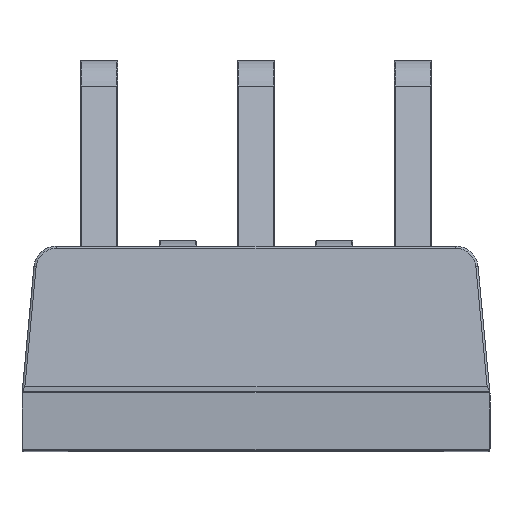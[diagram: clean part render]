
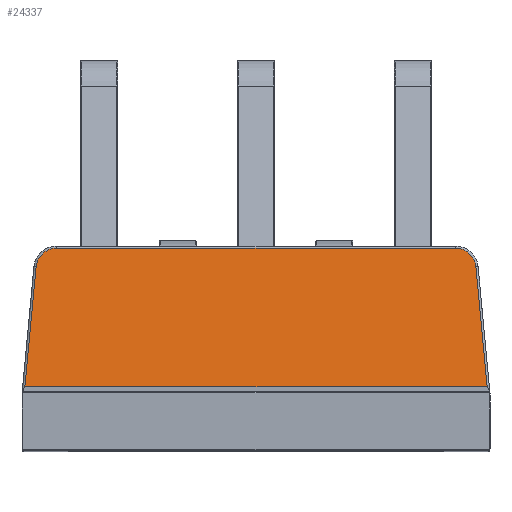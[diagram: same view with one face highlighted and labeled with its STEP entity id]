
A CAD part, top view. The second image highlights one B-rep face of the part: STEP entity #24337.
In plain terms, the highlighted planar face has unit normal (0, 0.139, 0.99).
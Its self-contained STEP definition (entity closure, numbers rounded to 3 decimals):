
#61 = ORIENTED_EDGE ( 'NONE', *, *, #9497, .F. ) ;
#1206 = ORIENTED_EDGE ( 'NONE', *, *, #5228, .T. ) ;
#1872 = CARTESIAN_POINT ( 'NONE',  ( 4.325, 1.497, 13.276 ) ) ;
#2528 = CARTESIAN_POINT ( 'NONE',  ( -4.773, 1.089, 13.333 ) ) ;
#2588 = EDGE_CURVE ( 'NONE', #28641, #30322, #22108, .T. ) ;
#3243 = DIRECTION ( 'NONE',  ( -1., 0., 0. ) ) ;
#3506 = FACE_OUTER_BOUND ( 'NONE', #8769, .T. ) ;
#5228 = EDGE_CURVE ( 'NONE', #28641, #17746, #13402, .T. ) ;
#5240 = CARTESIAN_POINT ( 'NONE',  ( -4.569, 1.497, 13.276 ) ) ;
#6667 = ORIENTED_EDGE ( 'NONE', *, *, #2588, .F. ) ;
#6788 = CARTESIAN_POINT ( 'NONE',  ( -4.773, 1.089, 13.333 ) ) ;
#7123 = CARTESIAN_POINT ( 'NONE',  ( 4.569, 1.497, 13.276 ) ) ;
#7518 = CARTESIAN_POINT ( 'NONE',  ( -4.75, 1.332, 13.299 ) ) ;
#8494 = CARTESIAN_POINT ( 'NONE',  ( -4.69, 1.972, 13.209 ) ) ;
#8769 = EDGE_LOOP ( 'NONE', ( #6667, #1206, #61, #9189, #15100, #17562 ) ) ;
#8947 = EDGE_CURVE ( 'NONE', #23387, #10921, #15773, .T. ) ;
#9189 = ORIENTED_EDGE ( 'NONE', *, *, #17534, .T. ) ;
#9497 = EDGE_CURVE ( 'NONE', #24983, #17746, #15358, .T. ) ;
#9736 = DIRECTION ( 'NONE',  ( -0.093, 0.986, -0.139 ) ) ;
#10921 = VERTEX_POINT ( 'NONE', #28400 ) ;
#11079 = CARTESIAN_POINT ( 'NONE',  ( -4.325, 1.497, 13.276 ) ) ;
#11173 = CARTESIAN_POINT ( 'NONE',  ( 5.017, -1.52, 13.7 ) ) ;
#11814 = LINE ( 'NONE', #12599, #20061 ) ;
#12599 = CARTESIAN_POINT ( 'NONE',  ( 4.69, 1.972, 13.209 ) ) ;
#13248 = PLANE ( 'NONE',  #15486 ) ;
#13402 = LINE ( 'NONE', #8494, #14436 ) ;
#13819 = CARTESIAN_POINT ( 'NONE',  ( 4.773, 1.089, 13.333 ) ) ;
#14436 = VECTOR ( 'NONE', #30514, 1000. ) ;
#15100 = ORIENTED_EDGE ( 'NONE', *, *, #8947, .F. ) ;
#15358 = LINE ( 'NONE', #25176, #18626 ) ;
#15486 = AXIS2_PLACEMENT_3D ( 'NONE', #19157, #28859, #23837 ) ;
#15595 = CARTESIAN_POINT ( 'NONE',  ( 0., 1.497, 13.276 ) ) ;
#15773 =( BOUNDED_CURVE ( )  B_SPLINE_CURVE ( 3, ( #1872, #7123, #19391, #13819 ),
 .UNSPECIFIED., .F., .F. ) 
 B_SPLINE_CURVE_WITH_KNOTS ( ( 4, 4 ),
 ( 0., 1.477 ),
 .UNSPECIFIED. ) 
 CURVE ( )  GEOMETRIC_REPRESENTATION_ITEM ( )  RATIONAL_B_SPLINE_CURVE ( ( 1., 0.826, 0.826, 1. ) ) 
 REPRESENTATION_ITEM ( '' )  );
#16076 = LINE ( 'NONE', #15595, #22748 ) ;
#17534 = EDGE_CURVE ( 'NONE', #24983, #10921, #11814, .T. ) ;
#17562 = ORIENTED_EDGE ( 'NONE', *, *, #19255, .T. ) ;
#17746 = VERTEX_POINT ( 'NONE', #25777 ) ;
#18626 = VECTOR ( 'NONE', #3243, 1000. ) ;
#19157 = CARTESIAN_POINT ( 'NONE',  ( 0., 1.54, 13.27 ) ) ;
#19255 = EDGE_CURVE ( 'NONE', #23387, #30322, #16076, .T. ) ;
#19391 = CARTESIAN_POINT ( 'NONE',  ( 4.75, 1.332, 13.299 ) ) ;
#20061 = VECTOR ( 'NONE', #9736, 1000. ) ;
#22108 =( BOUNDED_CURVE ( )  B_SPLINE_CURVE ( 3, ( #2528, #7518, #5240, #29669 ),
 .UNSPECIFIED., .F., .F. ) 
 B_SPLINE_CURVE_WITH_KNOTS ( ( 4, 4 ),
 ( 1.664, 3.142 ),
 .UNSPECIFIED. ) 
 CURVE ( )  GEOMETRIC_REPRESENTATION_ITEM ( )  RATIONAL_B_SPLINE_CURVE ( ( 1., 0.826, 0.826, 1. ) ) 
 REPRESENTATION_ITEM ( '' )  );
#22748 = VECTOR ( 'NONE', #25707, 1000. ) ;
#22749 = CARTESIAN_POINT ( 'NONE',  ( 4.325, 1.497, 13.276 ) ) ;
#23387 = VERTEX_POINT ( 'NONE', #22749 ) ;
#23837 = DIRECTION ( 'NONE',  ( -1., 0., 0. ) ) ;
#24337 = ADVANCED_FACE ( 'NONE', ( #3506 ), #13248, .T. ) ;
#24983 = VERTEX_POINT ( 'NONE', #11173 ) ;
#25176 = CARTESIAN_POINT ( 'NONE',  ( -4.78, -1.52, 13.7 ) ) ;
#25707 = DIRECTION ( 'NONE',  ( -1., 0., 0. ) ) ;
#25777 = CARTESIAN_POINT ( 'NONE',  ( -5.017, -1.52, 13.7 ) ) ;
#28400 = CARTESIAN_POINT ( 'NONE',  ( 4.773, 1.089, 13.333 ) ) ;
#28641 = VERTEX_POINT ( 'NONE', #6788 ) ;
#28859 = DIRECTION ( 'NONE',  ( 0., 0.139, 0.99 ) ) ;
#29669 = CARTESIAN_POINT ( 'NONE',  ( -4.325, 1.497, 13.276 ) ) ;
#30322 = VERTEX_POINT ( 'NONE', #11079 ) ;
#30514 = DIRECTION ( 'NONE',  ( -0.093, -0.986, 0.139 ) ) ;
